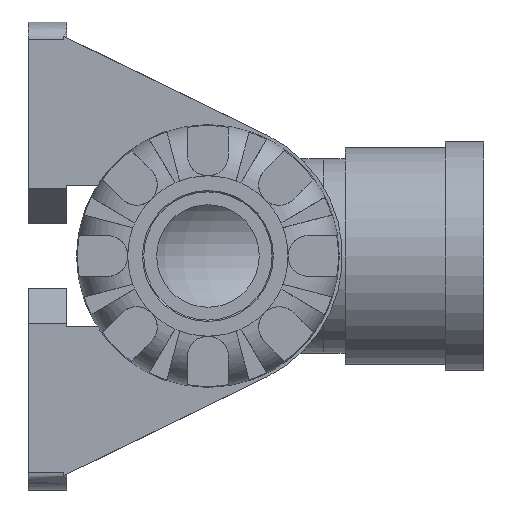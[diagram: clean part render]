
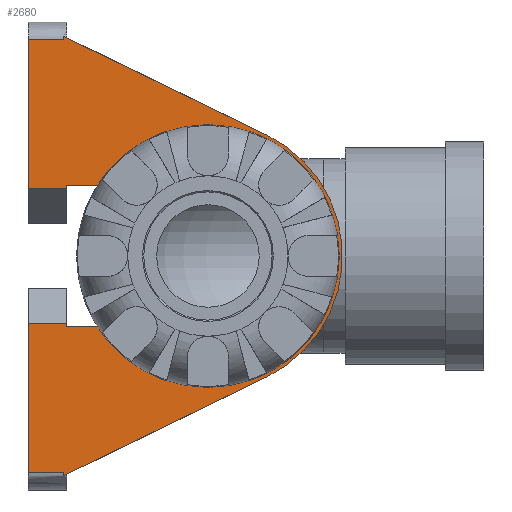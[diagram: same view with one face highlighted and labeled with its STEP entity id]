
A CAD part, left-side view. The second image highlights one B-rep face of the part: STEP entity #2680.
In plain terms, the highlighted planar face has unit normal (-1, 0, 0).
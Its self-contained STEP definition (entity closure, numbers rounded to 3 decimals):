
#114=CIRCLE('',#2729,20.988);
#200=CIRCLE('',#2924,18.646);
#368=FACE_OUTER_BOUND('',#544,.T.);
#544=EDGE_LOOP('',(#2145,#2146,#2147,#2148,#2149,#2150,#2151,#2152,#2153,
#2154,#2155,#2156,#2157,#2158,#2159,#2160));
#601=LINE('',#3704,#791);
#604=LINE('',#3711,#794);
#609=LINE('',#3731,#799);
#611=LINE('',#3738,#801);
#615=LINE('',#3747,#805);
#618=LINE('',#3762,#808);
#621=LINE('',#3773,#811);
#645=LINE('',#3851,#835);
#657=LINE('',#3891,#847);
#658=LINE('',#3893,#848);
#724=LINE('',#5037,#914);
#734=LINE('',#5073,#924);
#735=LINE('',#5075,#925);
#736=LINE('',#5076,#926);
#791=VECTOR('',#2986,35.224);
#794=VECTOR('',#2993,0.5);
#799=VECTOR('',#3006,6.944);
#801=VECTOR('',#3012,0.5);
#805=VECTOR('',#3018,35.224);
#808=VECTOR('',#3031,6.944);
#811=VECTOR('',#3036,5.5);
#835=VECTOR('',#3104,6.);
#847=VECTOR('',#3132,0.5);
#848=VECTOR('',#3135,23.277);
#914=VECTOR('',#3527,0.5);
#924=VECTOR('',#3555,5.5);
#925=VECTOR('',#3556,23.277);
#926=VECTOR('',#3557,6.);
#982=VERTEX_POINT('',#3701);
#983=VERTEX_POINT('',#3703);
#985=VERTEX_POINT('',#3709);
#990=VERTEX_POINT('',#3722);
#992=VERTEX_POINT('',#3729);
#994=VERTEX_POINT('',#3734);
#995=VERTEX_POINT('',#3736);
#999=VERTEX_POINT('',#3745);
#1001=VERTEX_POINT('',#3754);
#1002=VERTEX_POINT('',#3757);
#1003=VERTEX_POINT('',#3772);
#1028=VERTEX_POINT('',#3848);
#1029=VERTEX_POINT('',#3850);
#1163=VERTEX_POINT('',#5036);
#1180=VERTEX_POINT('',#5072);
#1181=VERTEX_POINT('',#5074);
#1224=EDGE_CURVE('',#983,#982,#601,.T.);
#1228=EDGE_CURVE('',#982,#985,#604,.T.);
#1236=EDGE_CURVE('',#990,#992,#609,.T.);
#1239=EDGE_CURVE('',#994,#995,#611,.T.);
#1243=EDGE_CURVE('',#995,#999,#615,.T.);
#1245=EDGE_CURVE('',#999,#983,#114,.T.);
#1250=EDGE_CURVE('',#1001,#1002,#618,.T.);
#1253=EDGE_CURVE('',#1003,#994,#621,.T.);
#1289=EDGE_CURVE('',#1028,#1029,#645,.T.);
#1305=EDGE_CURVE('',#992,#1029,#657,.T.);
#1306=EDGE_CURVE('',#1003,#1028,#658,.T.);
#1497=EDGE_CURVE('',#990,#1002,#200,.T.);
#1498=EDGE_CURVE('',#1001,#1163,#724,.T.);
#1516=EDGE_CURVE('',#1180,#985,#734,.T.);
#1517=EDGE_CURVE('',#1180,#1181,#735,.T.);
#1518=EDGE_CURVE('',#1181,#1163,#736,.T.);
#2145=ORIENTED_EDGE('',*,*,#1250,.T.);
#2146=ORIENTED_EDGE('',*,*,#1497,.F.);
#2147=ORIENTED_EDGE('',*,*,#1236,.T.);
#2148=ORIENTED_EDGE('',*,*,#1305,.T.);
#2149=ORIENTED_EDGE('',*,*,#1289,.F.);
#2150=ORIENTED_EDGE('',*,*,#1306,.F.);
#2151=ORIENTED_EDGE('',*,*,#1253,.T.);
#2152=ORIENTED_EDGE('',*,*,#1239,.T.);
#2153=ORIENTED_EDGE('',*,*,#1243,.T.);
#2154=ORIENTED_EDGE('',*,*,#1245,.T.);
#2155=ORIENTED_EDGE('',*,*,#1224,.T.);
#2156=ORIENTED_EDGE('',*,*,#1228,.T.);
#2157=ORIENTED_EDGE('',*,*,#1516,.F.);
#2158=ORIENTED_EDGE('',*,*,#1517,.T.);
#2159=ORIENTED_EDGE('',*,*,#1518,.T.);
#2160=ORIENTED_EDGE('',*,*,#1498,.F.);
#2393=PLANE('',#2935);
#2680=ADVANCED_FACE('',(#368),#2393,.T.);
#2729=AXIS2_PLACEMENT_3D('',#3750,#3023,#3024);
#2924=AXIS2_PLACEMENT_3D('',#5033,#3521,#3522);
#2935=AXIS2_PLACEMENT_3D('',#5071,#3553,#3554);
#2986=DIRECTION('',(0.,0.899,0.437));
#2993=DIRECTION('',(0.,0.,-1.));
#3006=DIRECTION('',(0.,1.,0.));
#3012=DIRECTION('',(0.,0.,-1.));
#3018=DIRECTION('',(0.,-0.899,0.437));
#3023=DIRECTION('center_axis',(-1.,0.,0.));
#3024=DIRECTION('ref_axis',(0.,-0.437,-0.899));
#3031=DIRECTION('',(0.,-1.,0.));
#3036=DIRECTION('',(0.,-1.,0.));
#3104=DIRECTION('',(0.,-1.,0.));
#3132=DIRECTION('',(0.,0.,1.));
#3135=DIRECTION('',(0.,0.,1.));
#3521=DIRECTION('center_axis',(-1.,0.,0.));
#3522=DIRECTION('ref_axis',(0.,0.,1.));
#3527=DIRECTION('',(0.,0.,-1.));
#3553=DIRECTION('center_axis',(-1.,0.,0.));
#3554=DIRECTION('ref_axis',(0.,0.,-1.));
#3555=DIRECTION('',(0.,-1.,0.));
#3556=DIRECTION('',(0.,0.,-1.));
#3557=DIRECTION('',(0.,-1.,0.));
#3701=CARTESIAN_POINT('',(-37.,22.5,34.277));
#3703=CARTESIAN_POINT('',(-37.,-9.178,18.875));
#3704=CARTESIAN_POINT('',(-37.,-9.178,18.875));
#3709=CARTESIAN_POINT('',(-37.,22.5,33.777));
#3711=CARTESIAN_POINT('',(-37.,22.5,34.277));
#3722=CARTESIAN_POINT('',(-37.,15.056,-11.));
#3729=CARTESIAN_POINT('',(-37.,22.,-11.));
#3731=CARTESIAN_POINT('',(-37.,14.874,-11.));
#3734=CARTESIAN_POINT('',(-37.,22.5,-33.777));
#3736=CARTESIAN_POINT('',(-37.,22.5,-34.277));
#3738=CARTESIAN_POINT('',(-37.,22.5,-11.));
#3745=CARTESIAN_POINT('',(-37.,-9.178,-18.875));
#3747=CARTESIAN_POINT('',(-37.,22.5,-34.277));
#3750=CARTESIAN_POINT('Origin',(-37.,0.,0.));
#3754=CARTESIAN_POINT('',(-37.,22.,11.));
#3757=CARTESIAN_POINT('',(-37.,15.056,11.));
#3762=CARTESIAN_POINT('',(-37.,22.5,11.));
#3772=CARTESIAN_POINT('',(-37.,28.,-33.777));
#3773=CARTESIAN_POINT('',(-37.,28.,-33.777));
#3848=CARTESIAN_POINT('',(-37.,28.,-10.5));
#3850=CARTESIAN_POINT('',(-37.,22.,-10.5));
#3851=CARTESIAN_POINT('',(-37.,28.,-10.5));
#3891=CARTESIAN_POINT('',(-37.,22.,-33.777));
#3893=CARTESIAN_POINT('',(-37.,28.,-33.777));
#5033=CARTESIAN_POINT('Origin',(-37.,0.,
0.));
#5036=CARTESIAN_POINT('',(-37.,22.,10.5));
#5037=CARTESIAN_POINT('',(-37.,22.,33.777));
#5071=CARTESIAN_POINT('Origin',(-37.,28.,33.777));
#5072=CARTESIAN_POINT('',(-37.,28.,33.777));
#5073=CARTESIAN_POINT('',(-37.,28.,33.777));
#5074=CARTESIAN_POINT('',(-37.,28.,10.5));
#5075=CARTESIAN_POINT('',(-37.,28.,33.777));
#5076=CARTESIAN_POINT('',(-37.,28.,10.5));
